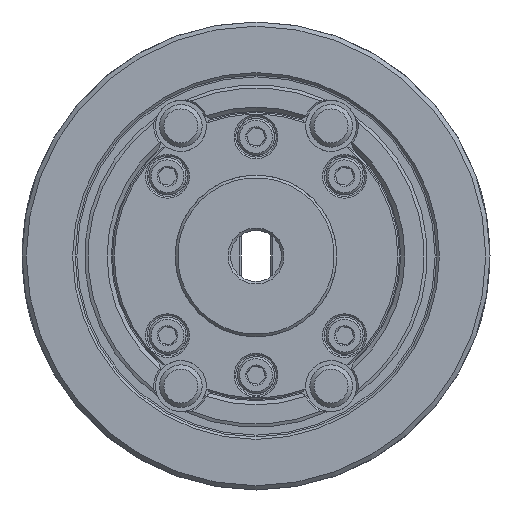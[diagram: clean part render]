
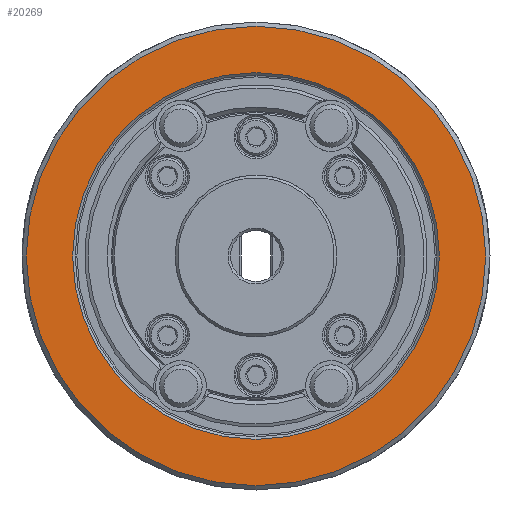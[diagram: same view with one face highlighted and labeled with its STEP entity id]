
A CAD part, left-side view. The second image highlights one B-rep face of the part: STEP entity #20269.
In plain terms, the highlighted planar face has unit normal (-1, 0, 0).
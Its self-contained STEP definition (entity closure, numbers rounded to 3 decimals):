
#97 = DIRECTION ( 'NONE',  ( 0., 0., -1. ) ) ;
#12539 = FACE_BOUND ( 'NONE', #56804, .T. ) ;
#13672 = CIRCLE ( 'NONE', #40685, 54. ) ;
#17094 = ORIENTED_EDGE ( 'NONE', *, *, #32329, .T. ) ;
#20269 = ADVANCED_FACE ( 'NONE', ( #47292, #12539 ), #23469, .F. ) ;
#23469 = PLANE ( 'NONE',  #53485 ) ;
#29739 = EDGE_LOOP ( 'NONE', ( #41966 ) ) ;
#31638 = CARTESIAN_POINT ( 'NONE',  ( -59., -43.1, 0. ) ) ;
#32329 = EDGE_CURVE ( 'NONE', #46140, #46140, #44335, .T. ) ;
#35239 = VERTEX_POINT ( 'NONE', #54661 ) ;
#37275 = DIRECTION ( 'NONE',  ( 0., 0., -1. ) ) ;
#37715 = DIRECTION ( 'NONE',  ( 1., 0., 0. ) ) ;
#40685 = AXIS2_PLACEMENT_3D ( 'NONE', #58053, #43298, #97 ) ;
#41966 = ORIENTED_EDGE ( 'NONE', *, *, #43079, .F. ) ;
#42403 = DIRECTION ( 'NONE',  ( 0., 0., -1. ) ) ;
#43079 = EDGE_CURVE ( 'NONE', #35239, #35239, #13672, .T. ) ;
#43298 = DIRECTION ( 'NONE',  ( 1., 0., 0. ) ) ;
#44335 = CIRCLE ( 'NONE', #50337, 43.1 ) ;
#46140 = VERTEX_POINT ( 'NONE', #55280 ) ;
#47292 = FACE_OUTER_BOUND ( 'NONE', #29739, .T. ) ;
#48021 = CARTESIAN_POINT ( 'NONE',  ( -59., 0., 0. ) ) ;
#50337 = AXIS2_PLACEMENT_3D ( 'NONE', #48021, #37715, #42403 ) ;
#53485 = AXIS2_PLACEMENT_3D ( 'NONE', #31638, #55781, #37275 ) ;
#54661 = CARTESIAN_POINT ( 'NONE',  ( -59., 0., -54. ) ) ;
#55280 = CARTESIAN_POINT ( 'NONE',  ( -59., 0., -43.1 ) ) ;
#55781 = DIRECTION ( 'NONE',  ( 1., 0., 0. ) ) ;
#56804 = EDGE_LOOP ( 'NONE', ( #17094 ) ) ;
#58053 = CARTESIAN_POINT ( 'NONE',  ( -59., 0., 0. ) ) ;
